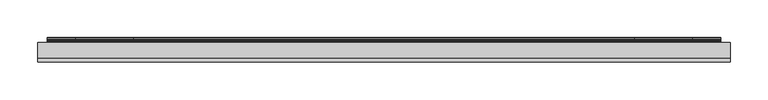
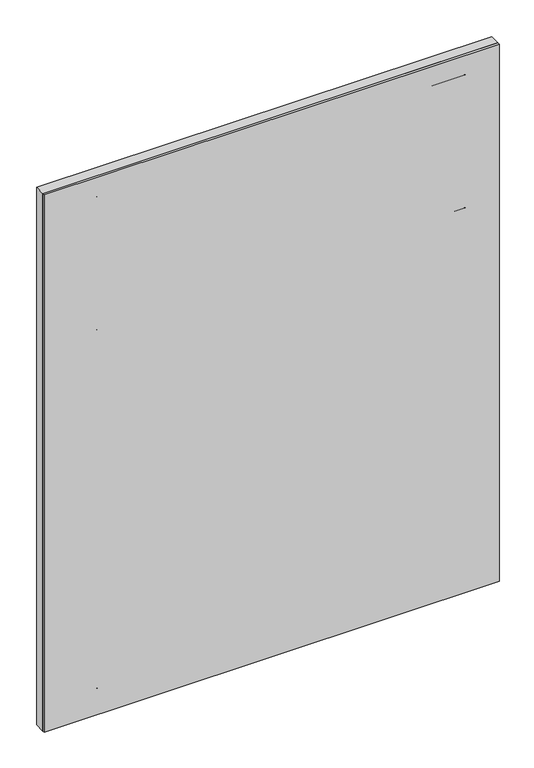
"""IFC4 building model written with IfcOpenShell, lengths in millimetres: furniture geometry, Geiger_GeigerOneCasegoods_WallTileTopTileorWallMountedPaintedGla : 36Wx 1.25Dx 45H."""

from ifc_helpers import new_model, si_unit, point, frame, frame_2d, origin, origin_with_axes, place, context, project, spatial, polyline, circle_curve, trimmed, segment, composite_curve, outline, extrude, faceted_brep, source, transform, mapped, element, save


def furniture_5eae95e6(model_context):
    return source(origin(), model_context, "Body", "SolidModel", [
        extrude(outline(composite_curve([segment(polyline([(2.8948, 38.2316), (2.8948, 31.2974), (3.7076, 30.51), (5.6126, 30.51), (6.4, 29.6972), (6.4, -2.002), (5.1046, -2.002), (3.5044, -0.4018), (3.5044, 24.1854), (2.6916, 24.9982), (0.812, 24.9982), (-0.0008, 25.7856), (-0.0008, 39.1968)]), True, "CONTINUOUS"), segment(trimmed(circle_curve(frame_2d((0.8026421, 39.1874421)), 0.8034966), [point((-0.0008, 39.1968))], [point((1.3708, 39.7556))], False, "CARTESIAN"), True, "CONTINUOUS"), segment(polyline([(1.3708, 39.7556), (2.8948, 38.2316)]), True, "CONTINUOUS")], self_intersect=False)), frame((12.5, 0.0, 0.0), z_axis=(1.0, 0.0, 0.0), x_axis=(0.0, 1.0, 0.0)), (0.0, 0.0, 1.0), 889.4),
        extrude(outline(polyline([(0.0, -21.5), (914.4, -21.5), (914.4, -25.5), (0.0, -25.5), (0.0, -21.5)])), origin_with_axes(), (0.0, 0.0, 1.0), 1142.0),
        faceted_brep([(906.399, -4.1656, 1133.999), (906.399, 0.0, 1133.999), (906.399, 0.0, 8.001), (906.399, -4.1656, 8.001), (900.557, -10.0076, 1128.157), (900.557, -10.0076, 13.843), (879.5766, -7.0104, 1107.1766), (882.5738, -10.0076, 1110.1738), (882.5738, -10.0076, 31.8262), (879.5766, -7.0104, 34.8234), (852.3986, -17.5006, 1079.9986), (852.3986, -7.0104, 1079.9986), (852.3986, -7.0104, 62.0014), (852.3986, -17.5006, 62.0014), (844.3976, -19.5072, 1071.9976), (844.3976, -17.5006, 1071.9976), (844.3976, -17.5006, 70.0024), (844.3976, -19.5072, 70.0024), (870.9914, -21.5, 1098.5914), (870.9914, -19.5072, 1098.5914), (870.9914, -19.5072, 43.4086), (870.9914, -21.5, 43.4086), (914.4, 0.0, 1142.0), (914.4, -21.5, 1142.0), (914.4, -21.5, 0.0), (914.4, 0.0, 0.0), (8.001, 0.0, 8.001), (8.001, -4.1656, 8.001), (13.843, -10.0076, 13.843), (31.8262, -10.0076, 31.8262), (34.8234, -7.0104, 34.8234), (62.0014, -7.0104, 62.0014), (62.0014, -17.5006, 62.0014), (70.0024, -17.5006, 70.0024), (70.0024, -19.5072, 70.0024), (43.4086, -19.5072, 43.4086), (43.4086, -21.5, 43.4086), (0.0, -21.5, 0.0), (0.0, 0.0, 0.0), (8.001, 0.0, 1133.999), (8.001, -4.1656, 1133.999), (13.843, -10.0076, 1128.157), (31.8262, -10.0076, 1110.1738), (34.8234, -7.0104, 1107.1766), (62.0014, -7.0104, 1079.9986), (62.0014, -17.5006, 1079.9986), (70.0024, -17.5006, 1071.9976), (70.0024, -19.5072, 1071.9976), (43.4086, -19.5072, 1098.5914), (43.4086, -21.5, 1098.5914), (0.0, -21.5, 1142.0), (0.0, 0.0, 1142.0)], [[[0, 1, 2, 3]], [[4, 0, 3, 5]], [[6, 7, 8, 9]], [[10, 11, 12, 13]], [[14, 15, 16, 17]], [[18, 19, 20, 21]], [[22, 23, 24, 25]], [[3, 2, 26, 27]], [[5, 3, 27, 28]], [[9, 8, 29, 30]], [[13, 12, 31, 32]], [[17, 16, 33, 34]], [[21, 20, 35, 36]], [[25, 24, 37, 38]], [[27, 26, 39, 40]], [[28, 27, 40, 41]], [[30, 29, 42, 43]], [[32, 31, 44, 45]], [[34, 33, 46, 47]], [[36, 35, 48, 49]], [[38, 37, 50, 51]], [[40, 39, 1, 0]], [[41, 40, 0, 4]], [[5, 28, 41, 4], [7, 42, 29, 8]], [[43, 42, 7, 6]], [[9, 30, 43, 6], [11, 44, 31, 12]], [[45, 44, 11, 10]], [[13, 32, 45, 10], [15, 46, 33, 16]], [[47, 46, 15, 14]], [[19, 48, 35, 20], [17, 34, 47, 14]], [[49, 48, 19, 18]], [[23, 50, 37, 24], [21, 36, 49, 18]], [[51, 50, 23, 22]], [[25, 38, 51, 22], [1, 39, 26, 2]]]),
        extrude(outline(composite_curve([segment(polyline([(2.8956, 46.3366), (3.7084, 45.5238), (5.588, 45.5238), (6.4008, 44.7364), (6.4008, 31.3320585)]), True, "CONTINUOUS"), segment(trimmed(circle_curve(frame_2d((5.5983612, 31.3320585)), 0.8024388), [point((6.4008, 31.3320585))], [point((5.0309514, 30.7646486))], False, "CARTESIAN"), True, "CONTINUOUS"), segment(polyline([(5.0309514, 30.7646486), (3.5052, 32.2904), (3.5052, 39.2246), (2.6924, 40.012), (0.7874, 40.012), (0.0, 40.8248), (0.0, 72.524), (1.2954, 72.524), (2.8956, 70.9238), (2.8956, 46.3366)]), True, "CONTINUOUS")], self_intersect=False)), frame((788.4, 0.0, 0.0), z_axis=(1.0, 0.0, 0.0), x_axis=(0.0, 1.0, 0.0)), (0.0, 0.0, 1.0), 76.0),
        extrude(outline(composite_curve([segment(polyline([(0.0, 72.524), (1.2954, 72.524), (2.8956, 70.9238), (2.8956, 46.3366), (3.7084, 45.5238), (5.588, 45.5238), (6.4008, 44.7364), (6.4008, 31.3320585)]), True, "CONTINUOUS"), segment(trimmed(circle_curve(frame_2d((5.5983612, 31.3320585)), 0.8024388), [point((6.4008, 31.3320585))], [point((5.0309514, 30.7646486))], False, "CARTESIAN"), True, "CONTINUOUS"), segment(polyline([(5.0309514, 30.7646486), (3.5052, 32.2904), (3.5052, 39.2246), (2.6924, 40.012), (0.7874, 40.012), (0.0, 40.8248), (0.0, 72.524)]), True, "CONTINUOUS")], self_intersect=False)), frame((50.0, 0.0, 0.0), z_axis=(1.0, 0.0, 0.0), x_axis=(0.0, 1.0, 0.0)), (0.0, 0.0, 1.0), 76.0),
        extrude(outline(composite_curve([segment(polyline([(2.8956, 808.3386), (3.7084, 807.5258), (5.588, 807.5258), (6.4008, 806.7384), (6.4008, 793.3340585)]), True, "CONTINUOUS"), segment(trimmed(circle_curve(frame_2d((5.5983612, 793.3340585)), 0.8024388), [point((6.4008, 793.3340585))], [point((5.0309514, 792.7666486))], False, "CARTESIAN"), True, "CONTINUOUS"), segment(polyline([(5.0309514, 792.7666486), (3.5052, 794.2924), (3.5052, 801.2266), (2.6924, 802.014), (0.7874, 802.014), (0.0, 802.8268), (0.0, 834.526), (1.2954, 834.526), (2.8956, 832.9258), (2.8956, 808.3386)]), True, "CONTINUOUS")], self_intersect=False)), frame((788.4, 0.0, 0.0), z_axis=(1.0, 0.0, 0.0), x_axis=(0.0, 1.0, 0.0)), (0.0, 0.0, 1.0), 76.0),
        extrude(outline(composite_curve([segment(polyline([(0.0, 834.526), (1.2954, 834.526), (2.8956, 832.9258), (2.8956, 808.3386), (3.7084, 807.5258), (5.588, 807.5258), (6.4008, 806.7384), (6.4008, 793.3340585)]), True, "CONTINUOUS"), segment(trimmed(circle_curve(frame_2d((5.5983612, 793.3340585)), 0.8024388), [point((6.4008, 793.3340585))], [point((5.0309514, 792.7666486))], False, "CARTESIAN"), True, "CONTINUOUS"), segment(polyline([(5.0309514, 792.7666486), (3.5052, 794.2924), (3.5052, 801.2266), (2.6924, 802.014), (0.7874, 802.014), (0.0, 802.8268), (0.0, 834.526)]), True, "CONTINUOUS")], self_intersect=False)), frame((50.0, 0.0, 0.0), z_axis=(1.0, 0.0, 0.0), x_axis=(0.0, 1.0, 0.0)), (0.0, 0.0, 1.0), 76.0),
        extrude(outline(composite_curve([segment(polyline([(2.8948, 800.2336), (2.8948, 793.2994), (3.7076, 792.512), (5.6126, 792.512), (6.4, 791.6992), (6.4, 760.0), (5.1046, 760.0), (3.5044, 761.6002), (3.5044, 786.1874), (2.6916, 787.0002), (0.812, 787.0002), (-0.0008, 787.7876), (-0.0008, 801.1988)]), True, "CONTINUOUS"), segment(trimmed(circle_curve(frame_2d((0.8026421, 801.1894421)), 0.8034966), [point((-0.0008, 801.1988))], [point((1.3708, 801.7576))], False, "CARTESIAN"), True, "CONTINUOUS"), segment(polyline([(1.3708, 801.7576), (2.8948, 800.2336)]), True, "CONTINUOUS")], self_intersect=False)), frame((12.5, 0.0, 0.0), z_axis=(1.0, 0.0, 0.0), x_axis=(0.0, 1.0, 0.0)), (0.0, 0.0, 1.0), 889.4),
        extrude(outline(composite_curve([segment(polyline([(2.8956, 1090.8326), (3.7084, 1090.0198), (5.588, 1090.0198), (6.4008, 1089.2324), (6.4008, 1075.8280585)]), True, "CONTINUOUS"), segment(trimmed(circle_curve(frame_2d((5.5983612, 1075.8280585)), 0.8024388), [point((6.4008, 1075.8280585))], [point((5.0309514, 1075.2606486))], False, "CARTESIAN"), True, "CONTINUOUS"), segment(polyline([(5.0309514, 1075.2606486), (3.5052, 1076.7864), (3.5052, 1083.7206), (2.6924, 1084.508), (0.7874, 1084.508), (0.0, 1085.3208), (0.0, 1117.02), (1.2954, 1117.02), (2.8956, 1115.4198), (2.8956, 1090.8326)]), True, "CONTINUOUS")], self_intersect=False)), frame((788.4, 0.0, 0.0), z_axis=(1.0, 0.0, 0.0), x_axis=(0.0, 1.0, 0.0)), (0.0, 0.0, 1.0), 76.0),
        extrude(outline(composite_curve([segment(polyline([(3.5052, 1076.7864), (3.5052, 1083.7206), (2.6924, 1084.508), (0.7874, 1084.508), (0.0, 1085.3208), (0.0, 1117.02), (1.2954, 1117.02), (2.8956, 1115.4198), (2.8956, 1090.8326), (3.7084, 1090.0198), (5.588, 1090.0198), (6.4008, 1089.2324), (6.4008, 1075.8280585)]), True, "CONTINUOUS"), segment(trimmed(circle_curve(frame_2d((5.5983612, 1075.8280585)), 0.8024388), [point((6.4008, 1075.8280585))], [point((5.0309514, 1075.2606486))], False, "CARTESIAN"), True, "CONTINUOUS"), segment(polyline([(5.0309514, 1075.2606486), (3.5052, 1076.7864)]), True, "CONTINUOUS")], self_intersect=False)), frame((50.0, 0.0, 0.0), z_axis=(1.0, 0.0, 0.0), x_axis=(0.0, 1.0, 0.0)), (0.0, 0.0, 1.0), 76.0),
        extrude(outline(composite_curve([segment(polyline([(2.8948, 1082.7418), (2.8948, 1075.8076), (3.7076, 1075.0202), (5.6126, 1075.0202), (6.4, 1074.2074), (6.4, 1042.5082), (5.1046, 1042.5082), (3.5044, 1044.1084), (3.5044, 1068.6956), (2.6916, 1069.5084), (0.812, 1069.5084), (-0.0008, 1070.2958), (-0.0008, 1083.707)]), True, "CONTINUOUS"), segment(trimmed(circle_curve(frame_2d((0.8026421, 1083.6976421)), 0.8034966), [point((-0.0008, 1083.707))], [point((1.3708, 1084.2658))], False, "CARTESIAN"), True, "CONTINUOUS"), segment(polyline([(1.3708, 1084.2658), (2.8948, 1082.7418)]), True, "CONTINUOUS")], self_intersect=False)), frame((12.5, 0.0, 0.0), z_axis=(1.0, 0.0, 0.0), x_axis=(0.0, 1.0, 0.0)), (0.0, 0.0, 1.0), 889.4),
    ])


if __name__ == "__main__":
    model = new_model("IFC4")
    model_context = context("Model", 3, world=origin())
    ifc_project = project(units=[si_unit("LENGTHUNIT", "METRE", prefix="MILLI")], contexts=[model_context])
    site = spatial("IfcSite", under=ifc_project)
    building = spatial("IfcBuilding", under=site)
    placement = place(None, origin())
    furniture_shape = furniture_5eae95e6(model_context)
    element("IfcFurniture", 1, ObjectType="Geiger_GeigerOneCasegoods_WallTileTopTileorWallMountedPaintedGla : 36Wx 1.25Dx 45H", at=placement, inside=building, context=model_context, shape_type="MappedRepresentation", body=[
        mapped(furniture_shape, transform((0.0, 0.0, 0.0), x_axis=(1.0, 0.0, 0.0), y_axis=(0.0, 1.0, 0.0), z_axis=(0.0, 0.0, 1.0))),
    ])
    save(model, "model.ifc")
